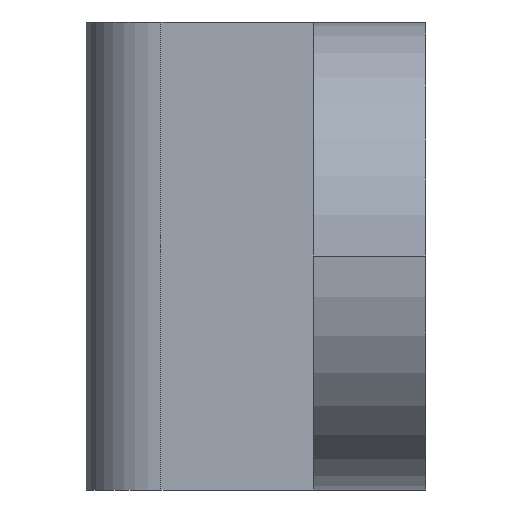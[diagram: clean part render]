
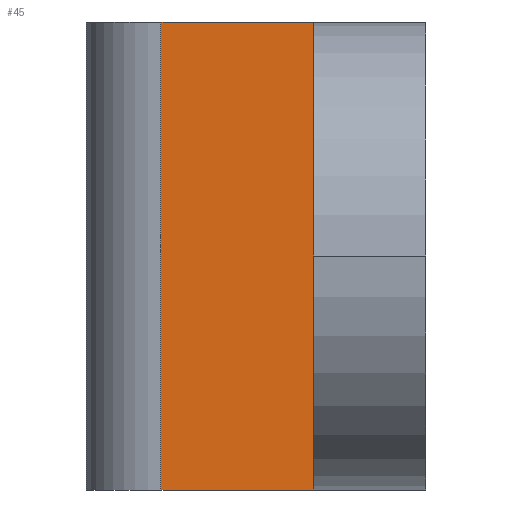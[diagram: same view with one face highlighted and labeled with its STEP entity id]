
A CAD part, left-side view. The second image highlights one B-rep face of the part: STEP entity #45.
In plain terms, the highlighted planar face has unit normal (-1, 0, 0).
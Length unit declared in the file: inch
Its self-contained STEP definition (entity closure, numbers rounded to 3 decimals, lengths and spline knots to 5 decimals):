
#15 = CARTESIAN_POINT ( 'NONE',  ( -0.46853, 0.283, 0.25 ) ) ;
#20 = ORIENTED_EDGE ( 'NONE', *, *, #355, .T. ) ;
#45 = ADVANCED_FACE ( 'NONE', ( #920 ), #476, .F. ) ;
#112 = CARTESIAN_POINT ( 'NONE',  ( -0.46853, 0.12, -0.25 ) ) ;
#132 = DIRECTION ( 'NONE',  ( 0., -1., 0. ) ) ;
#217 = EDGE_CURVE ( 'NONE', #300, #1021, #668, .T. ) ;
#258 = CARTESIAN_POINT ( 'NONE',  ( -0.46853, 0.12, 0.25 ) ) ;
#297 = VERTEX_POINT ( 'NONE', #112 ) ;
#300 = VERTEX_POINT ( 'NONE', #15 ) ;
#301 = VECTOR ( 'NONE', #132, 39.37008 ) ;
#308 = ORIENTED_EDGE ( 'NONE', *, *, #217, .F. ) ;
#319 = EDGE_LOOP ( 'NONE', ( #308, #20, #591, #731 ) ) ;
#351 = VERTEX_POINT ( 'NONE', #593 ) ;
#355 = EDGE_CURVE ( 'NONE', #300, #351, #977, .T. ) ;
#370 = DIRECTION ( 'NONE',  ( 0., 0., -1. ) ) ;
#432 = CARTESIAN_POINT ( 'NONE',  ( -0.46853, 0.363, -0.25 ) ) ;
#476 = PLANE ( 'NONE',  #818 ) ;
#493 = EDGE_CURVE ( 'NONE', #1021, #297, #892, .T. ) ;
#533 = VECTOR ( 'NONE', #1133, 39.37008 ) ;
#558 = DIRECTION ( 'NONE',  ( 1., 0., 0. ) ) ;
#587 = DIRECTION ( 'NONE',  ( 0., -1., 0. ) ) ;
#591 = ORIENTED_EDGE ( 'NONE', *, *, #904, .T. ) ;
#593 = CARTESIAN_POINT ( 'NONE',  ( -0.46853, 0.283, -0.25 ) ) ;
#668 = LINE ( 'NONE', #831, #804 ) ;
#728 = CARTESIAN_POINT ( 'NONE',  ( -0.46853, 0.12, 0.25 ) ) ;
#731 = ORIENTED_EDGE ( 'NONE', *, *, #493, .F. ) ;
#765 = CARTESIAN_POINT ( 'NONE',  ( -0.46853, 0.363, 0.25 ) ) ;
#804 = VECTOR ( 'NONE', #587, 39.37008 ) ;
#818 = AXIS2_PLACEMENT_3D ( 'NONE', #765, #558, #370 ) ;
#831 = CARTESIAN_POINT ( 'NONE',  ( -0.46853, 0.363, 0.25 ) ) ;
#892 = LINE ( 'NONE', #728, #1065 ) ;
#904 = EDGE_CURVE ( 'NONE', #351, #297, #1128, .T. ) ;
#920 = FACE_OUTER_BOUND ( 'NONE', #319, .T. ) ;
#950 = CARTESIAN_POINT ( 'NONE',  ( -0.46853, 0.283, 0.25 ) ) ;
#977 = LINE ( 'NONE', #950, #533 ) ;
#1021 = VERTEX_POINT ( 'NONE', #258 ) ;
#1065 = VECTOR ( 'NONE', #1174, 39.37008 ) ;
#1128 = LINE ( 'NONE', #432, #301 ) ;
#1133 = DIRECTION ( 'NONE',  ( 0., 0., -1. ) ) ;
#1174 = DIRECTION ( 'NONE',  ( 0., 0., -1. ) ) ;
